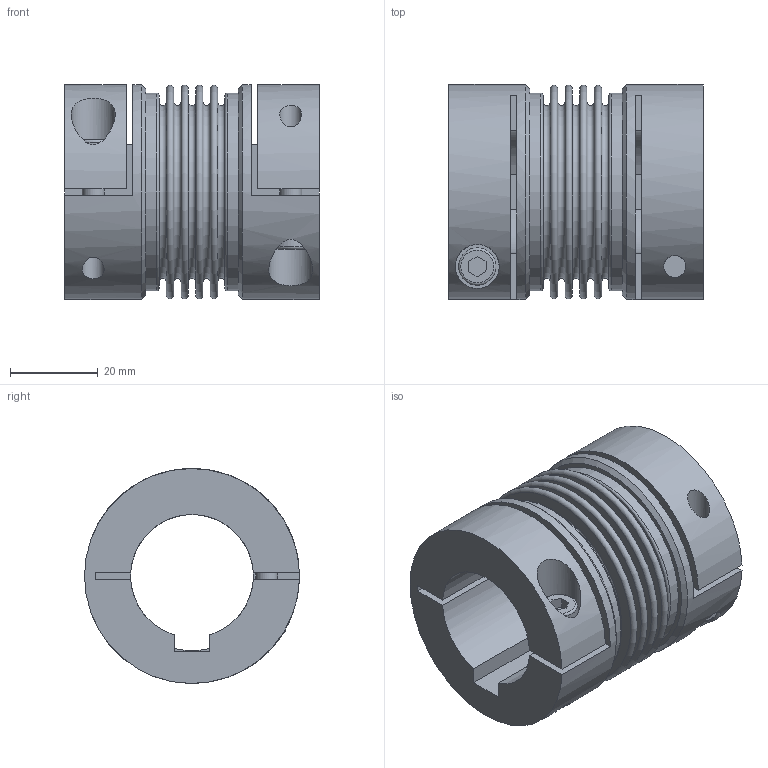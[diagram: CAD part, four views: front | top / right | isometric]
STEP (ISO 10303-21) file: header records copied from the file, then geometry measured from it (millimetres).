
FILE_DESCRIPTION(/* description */ ('STEP AP214'),/* implementation_level */ '2;1');
FILE_NAME(/* name */ 'C:\Diequa Files\DieQua Coupling\BCE\STP\BCE.15.#.#.stp',/* time_stamp */ '2018-11-20T09:50:57-06:00',/* author */ ('DiequaCAD'),/* organization */ (''),/* preprocessor_version */ 'ST-DEVELOPER v17.2',/* originating_system */ 'Autodesk Inventor 2019',/* authorisation */ ' ');
FILE_SCHEMA (('AUTOMOTIVE_DESIGN { 1 0 10303 214 3 1 1 }'));
Length unit declared in the file: millimetre
Products named in the file (1): BKL_15_28_PFN_28_PFN_39
Bounding box: 58 x 49 x 49 mm (x, y, z)
Volume: 56543.9 mm3; surface area: 26740.8 mm2
Topology: 1 solids, 1 shells, 90 faces, 222 edges, 152 vertices
Faces by surface type: plane 58, cylinder 17, torus 13, cone 2
Full cylindrical faces by diameter (mm): 5 x4, 8.5 x2, 10 x2, 34 x1, 45 x2, 49 x2
Entity records: 2923 total; most frequent: CARTESIAN_POINT 615, DIRECTION 499, ORIENTED_EDGE 444, EDGE_CURVE 222, AXIS2_PLACEMENT_3D 192, VERTEX_POINT 152, LINE 115, VECTOR 115
